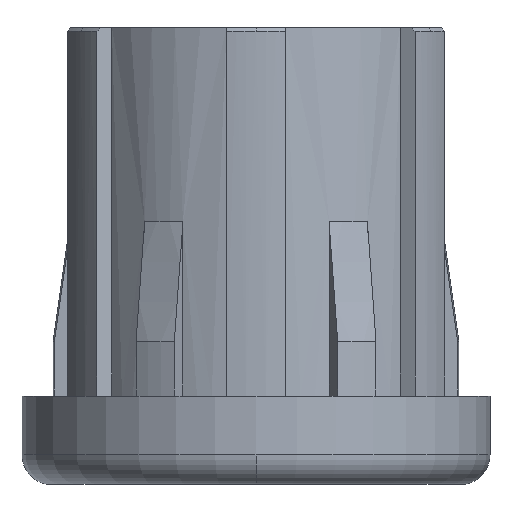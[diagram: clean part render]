
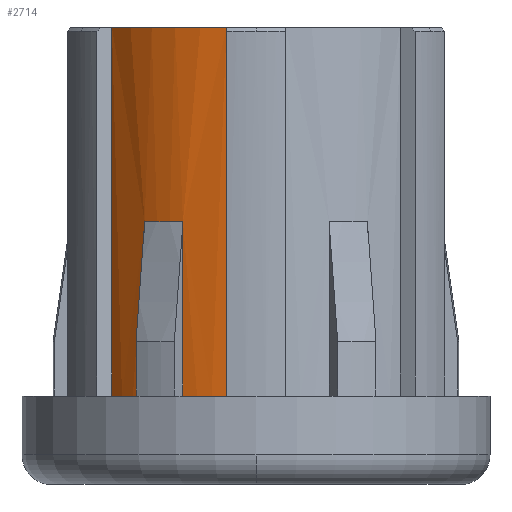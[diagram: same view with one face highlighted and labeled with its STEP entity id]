
A CAD part, front view. The second image highlights one B-rep face of the part: STEP entity #2714.
In plain terms, the highlighted cylindrical face has radius 12.6 mm (diameter 25.2 mm), a partial arc.
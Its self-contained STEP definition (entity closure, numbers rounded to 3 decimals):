
#3 = DIRECTION ( 'NONE',  ( 0., 0., 1. ) ) ;
#36 = VERTEX_POINT ( 'NONE', #2175 ) ;
#54 = EDGE_CURVE ( 'NONE', #2737, #2468, #2362, .T. ) ;
#56 = CARTESIAN_POINT ( 'NONE',  ( -9.774, -7.952, 30.25 ) ) ;
#96 = AXIS2_PLACEMENT_3D ( 'NONE', #347, #1364, #1618 ) ;
#140 = DIRECTION ( 'NONE',  ( 0., 0., 1. ) ) ;
#161 = VERTEX_POINT ( 'NONE', #1253 ) ;
#258 = VERTEX_POINT ( 'NONE', #1535 ) ;
#346 = EDGE_CURVE ( 'NONE', #161, #2468, #399, .T. ) ;
#347 = CARTESIAN_POINT ( 'NONE',  ( 0., 0., 17.086 ) ) ;
#360 = ORIENTED_EDGE ( 'NONE', *, *, #3074, .F. ) ;
#388 = VECTOR ( 'NONE', #1269, 1000. ) ;
#399 = LINE ( 'NONE', #3099, #2028 ) ;
#479 = EDGE_CURVE ( 'NONE', #2255, #258, #2958, .T. ) ;
#504 = DIRECTION ( 'NONE',  ( 1., 0., 0. ) ) ;
#566 = CARTESIAN_POINT ( 'NONE',  ( -7.554, -10.084, 5.25 ) ) ;
#679 = DIRECTION ( 'NONE',  ( 1., 0., 0. ) ) ;
#757 = DIRECTION ( 'NONE',  ( 0., 0., -1. ) ) ;
#777 = ORIENTED_EDGE ( 'NONE', *, *, #54, .T. ) ;
#852 = AXIS2_PLACEMENT_3D ( 'NONE', #3252, #3, #504 ) ;
#1022 = LINE ( 'NONE', #3156, #1626 ) ;
#1054 = FACE_OUTER_BOUND ( 'NONE', #1375, .T. ) ;
#1065 = ORIENTED_EDGE ( 'NONE', *, *, #1298, .T. ) ;
#1100 = DIRECTION ( 'NONE',  ( 0., 0., -1. ) ) ;
#1165 = CARTESIAN_POINT ( 'NONE',  ( 0., 0., 5.25 ) ) ;
#1173 = VECTOR ( 'NONE', #3017, 1000. ) ;
#1179 = AXIS2_PLACEMENT_3D ( 'NONE', #3155, #140, #679 ) ;
#1237 = CIRCLE ( 'NONE', #3093, 12.6 ) ;
#1253 = CARTESIAN_POINT ( 'NONE',  ( -7.554, -10.084, 17.086 ) ) ;
#1269 = DIRECTION ( 'NONE',  ( 0., 0., -1. ) ) ;
#1298 = EDGE_CURVE ( 'NONE', #2523, #2037, #1237, .T. ) ;
#1322 = CARTESIAN_POINT ( 'NONE',  ( -4.956, -11.584, 5.25 ) ) ;
#1342 = AXIS2_PLACEMENT_3D ( 'NONE', #3231, #2979, #3244 ) ;
#1364 = DIRECTION ( 'NONE',  ( 0., 0., -1. ) ) ;
#1375 = EDGE_LOOP ( 'NONE', ( #1652, #2970, #1065, #360, #2173, #1567, #777, #2086 ) ) ;
#1535 = CARTESIAN_POINT ( 'NONE',  ( -2., -12.44, 30.25 ) ) ;
#1567 = ORIENTED_EDGE ( 'NONE', *, *, #2755, .T. ) ;
#1618 = DIRECTION ( 'NONE',  ( -1., 0., 0. ) ) ;
#1626 = VECTOR ( 'NONE', #757, 1000. ) ;
#1652 = ORIENTED_EDGE ( 'NONE', *, *, #2812, .F. ) ;
#1696 = DIRECTION ( 'NONE',  ( 1., 0., 0. ) ) ;
#1706 = CARTESIAN_POINT ( 'NONE',  ( -9.774, -7.952, 30.25 ) ) ;
#1772 = CARTESIAN_POINT ( 'NONE',  ( -9.774, -7.952, 5.25 ) ) ;
#1782 = CARTESIAN_POINT ( 'NONE',  ( -4.956, -11.584, 30.25 ) ) ;
#1804 = EDGE_CURVE ( 'NONE', #36, #2523, #2391, .T. ) ;
#1854 = LINE ( 'NONE', #56, #1173 ) ;
#1892 = CYLINDRICAL_SURFACE ( 'NONE', #1342, 12.6 ) ;
#2028 = VECTOR ( 'NONE', #1100, 1000. ) ;
#2037 = VERTEX_POINT ( 'NONE', #2723 ) ;
#2086 = ORIENTED_EDGE ( 'NONE', *, *, #346, .F. ) ;
#2173 = ORIENTED_EDGE ( 'NONE', *, *, #479, .F. ) ;
#2175 = CARTESIAN_POINT ( 'NONE',  ( -4.956, -11.584, 17.086 ) ) ;
#2255 = VERTEX_POINT ( 'NONE', #1706 ) ;
#2362 = CIRCLE ( 'NONE', #852, 12.6 ) ;
#2391 = LINE ( 'NONE', #1782, #388 ) ;
#2468 = VERTEX_POINT ( 'NONE', #566 ) ;
#2523 = VERTEX_POINT ( 'NONE', #1322 ) ;
#2714 = ADVANCED_FACE ( 'NONE', ( #1054 ), #1892, .T. ) ;
#2723 = CARTESIAN_POINT ( 'NONE',  ( -2., -12.44, 5.25 ) ) ;
#2737 = VERTEX_POINT ( 'NONE', #1772 ) ;
#2755 = EDGE_CURVE ( 'NONE', #2255, #2737, #1854, .T. ) ;
#2781 = CIRCLE ( 'NONE', #96, 12.6 ) ;
#2812 = EDGE_CURVE ( 'NONE', #36, #161, #2781, .T. ) ;
#2912 = DIRECTION ( 'NONE',  ( 0., 0., 1. ) ) ;
#2958 = CIRCLE ( 'NONE', #1179, 12.6 ) ;
#2970 = ORIENTED_EDGE ( 'NONE', *, *, #1804, .T. ) ;
#2979 = DIRECTION ( 'NONE',  ( 0., 0., 1. ) ) ;
#3017 = DIRECTION ( 'NONE',  ( 0., 0., -1. ) ) ;
#3074 = EDGE_CURVE ( 'NONE', #258, #2037, #1022, .T. ) ;
#3093 = AXIS2_PLACEMENT_3D ( 'NONE', #1165, #2912, #1696 ) ;
#3099 = CARTESIAN_POINT ( 'NONE',  ( -7.554, -10.084, 30.25 ) ) ;
#3155 = CARTESIAN_POINT ( 'NONE',  ( 0., 0., 30.25 ) ) ;
#3156 = CARTESIAN_POINT ( 'NONE',  ( -2., -12.44, 30.25 ) ) ;
#3231 = CARTESIAN_POINT ( 'NONE',  ( 0., 0., 30.25 ) ) ;
#3244 = DIRECTION ( 'NONE',  ( -1., 0., 0. ) ) ;
#3252 = CARTESIAN_POINT ( 'NONE',  ( 0., 0., 5.25 ) ) ;
